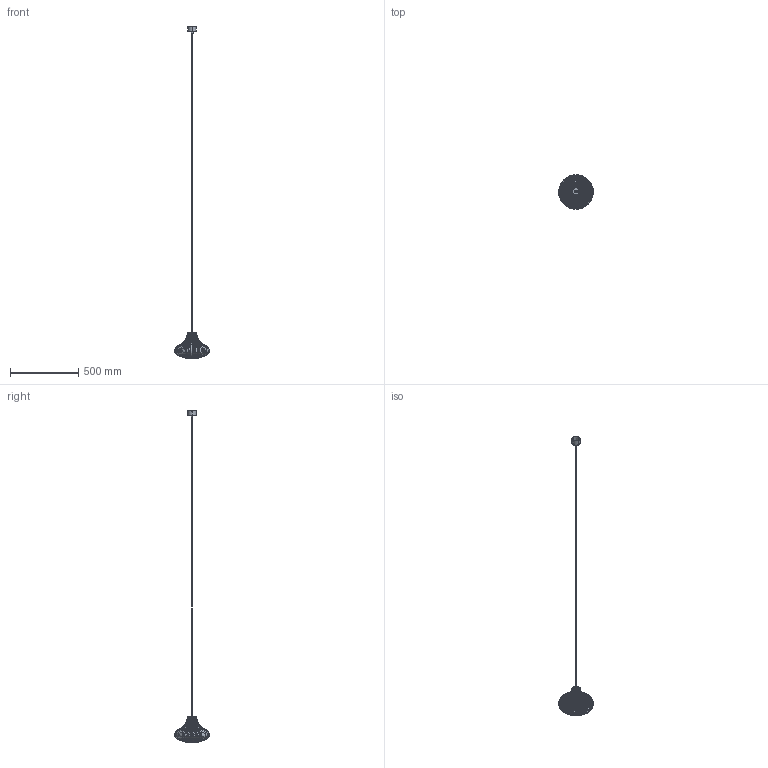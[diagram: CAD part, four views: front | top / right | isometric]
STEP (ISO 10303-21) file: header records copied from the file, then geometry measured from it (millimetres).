
FILE_DESCRIPTION(/* description */ (''),/* implementation_level */ '2;1');
FILE_NAME(/* name */ 'L091.000',/* time_stamp */ '2024-09-02T15:48:43+02:00',/* author */ (''),/* organization */ (''),/* preprocessor_version */ 'ST-DEVELOPER v16.5',/* originating_system */ '',/* authorisation */ '');
FILE_SCHEMA (('AUTOMOTIVE_DESIGN'));
Products named in the file (1): Document
Bounding box: 254.02 x 254.17 x 2431.3 mm (x, y, z)
Volume: 541128.9 mm3; surface area: 465665.9 mm2
Topology: 23 solids, 27 shells, 3775 faces, 9693 edges, 5931 vertices
Faces by surface type: bspline 2636, plane 1139
Entity records: 307175 total; most frequent: CARTESIAN_POINT 251322, ORIENTED_EDGE 19269, EDGE_CURVE 9659, VERTEX_POINT 5931, B_SPLINE_CURVE_WITH_KNOTS 5876, EDGE_LOOP 3850, ADVANCED_FACE 3775, FACE_OUTER_BOUND 3775
